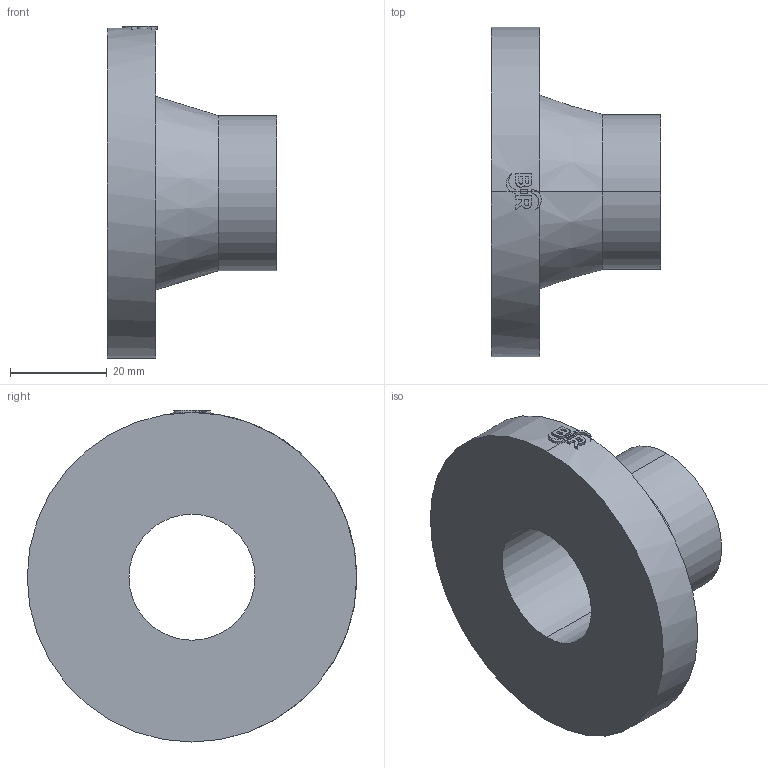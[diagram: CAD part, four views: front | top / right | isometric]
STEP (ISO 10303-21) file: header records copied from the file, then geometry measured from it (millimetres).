
FILE_DESCRIPTION (( 'STEP AP214' ), '1' );
FILE_NAME ('233508F015.STEP', '2018-07-20T12:15:54', ( '' ), ( '' ), 'SwSTEP 2.0', 'SolidWorks 2017', '' );
FILE_SCHEMA (( 'AUTOMOTIVE_DESIGN' ));
Length unit declared in the file: millimetre
Products named in the file (1): 233508F015
Bounding box: 35 x 68 x 68.5 mm (x, y, z)
Volume: 40681.5 mm3; surface area: 13521.2 mm2
Topology: 1 solids, 1 shells, 62 faces, 160 edges, 106 vertices
Faces by surface type: cylinder 30, plane 30, cone 2
Entity records: 2829 total; most frequent: CARTESIAN_POINT 633, ORIENTED_EDGE 320, DIRECTION 295, EDGE_CURVE 160, AXIS2_PLACEMENT_3D 112, VERTEX_POINT 106, VECTOR 71, LINE 71
